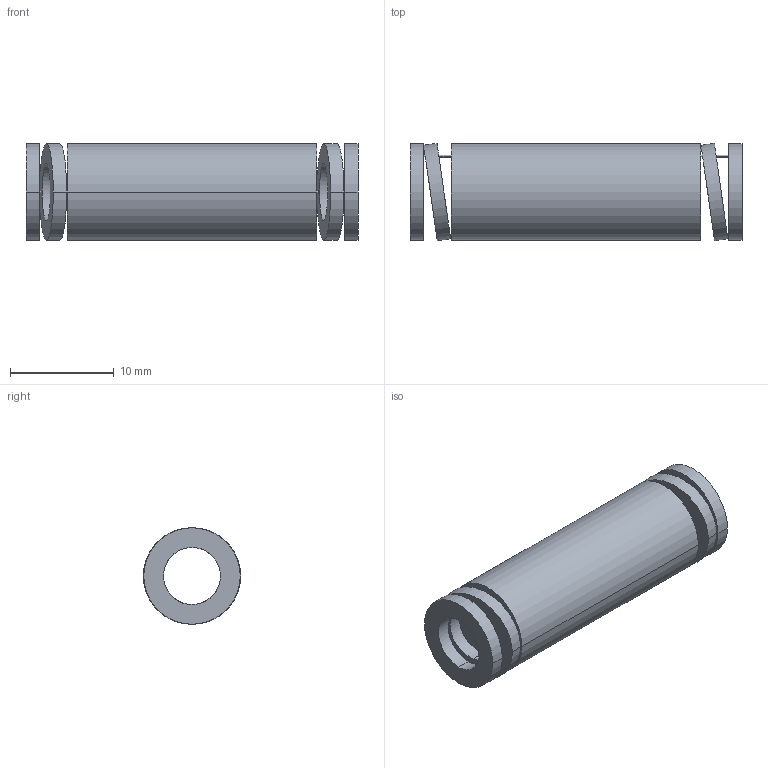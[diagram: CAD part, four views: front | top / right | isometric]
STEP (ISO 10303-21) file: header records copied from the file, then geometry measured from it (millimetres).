
FILE_DESCRIPTION(('CATIA V5 STEP Exchange'),'2;1');
FILE_NAME('C:\Users\Utente\Desktop\IO LAVORO\3D X SITO CF\X SITO\3D files 392B\392-B10-032.stp','2021-08-12T13:03:19+00:00',('none'),('none'),'CATIA Version 5 Release 20 GA (IN-10)','CATIA V5 STEP AP203','none');
FILE_SCHEMA(('CONFIG_CONTROL_DESIGN'));
Length unit declared in the file: millimetre
Products named in the file (1): 392-B10-032
Bounding box: 32 x 9.39 x 9.3 mm (x, y, z)
Volume: 1291.7 mm3; surface area: 1802.9 mm2
Topology: 1 solids, 1 shells, 38 faces, 92 edges, 64 vertices
Faces by surface type: cylinder 28, plane 10
Entity records: 1536 total; most frequent: CARTESIAN_POINT 645, ORIENTED_EDGE 184, DIRECTION 130, EDGE_CURVE 92, AXIS2_PLACEMENT_3D 65, VERTEX_POINT 64, EDGE_LOOP 56, ADVANCED_FACE 38
